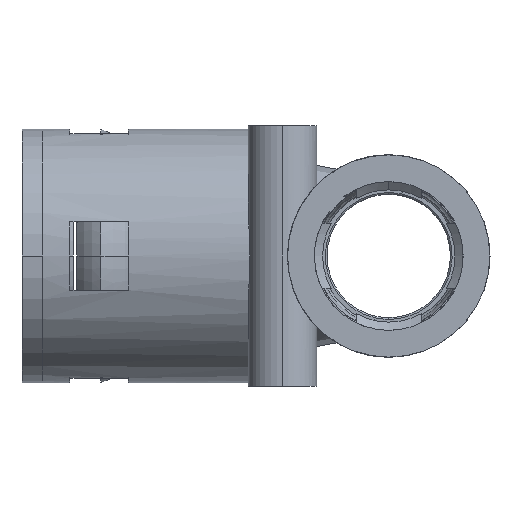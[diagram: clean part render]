
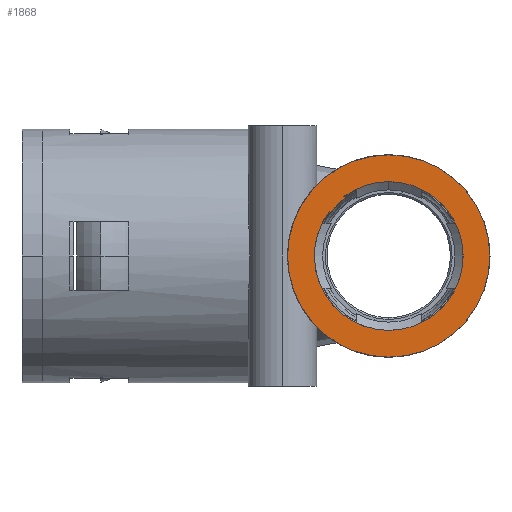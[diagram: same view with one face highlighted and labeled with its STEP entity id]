
A CAD part, left-side view. The second image highlights one B-rep face of the part: STEP entity #1868.
In plain terms, the highlighted planar face has unit normal (-1, 0, 0) as drawn and (0, 0, 1) by its records, which use the part's own axes.
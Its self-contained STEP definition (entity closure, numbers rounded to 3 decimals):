
#8 = VERTEX_POINT ( 'NONE', #5206 ) ;
#257 = CARTESIAN_POINT ( 'NONE',  ( 6.359, 8.481, 19.5 ) ) ;
#275 = ORIENTED_EDGE ( 'NONE', *, *, #709, .F. ) ;
#709 = EDGE_CURVE ( 'NONE', #2262, #8, #6063, .T. ) ;
#936 = EDGE_CURVE ( 'NONE', #12183, #5266, #12433, .T. ) ;
#1345 = VECTOR ( 'NONE', #5549, 1000. ) ;
#1555 = DIRECTION ( 'NONE',  ( 0., 0., 1. ) ) ;
#1868 = ADVANCED_FACE ( 'NONE', ( #4822, #12849 ), #13317, .T. ) ;
#1883 = DIRECTION ( 'NONE',  ( 0., 0., 1. ) ) ;
#2225 = AXIS2_PLACEMENT_3D ( 'NONE', #2880, #12325, #6053 ) ;
#2262 = VERTEX_POINT ( 'NONE', #12675 ) ;
#2439 = DIRECTION ( 'NONE',  ( 0., 0., 1. ) ) ;
#2767 = CARTESIAN_POINT ( 'NONE',  ( 0., 0., 19.5 ) ) ;
#2880 = CARTESIAN_POINT ( 'NONE',  ( 0., 0., 19.5 ) ) ;
#3063 = EDGE_CURVE ( 'NONE', #5266, #12183, #9733, .T. ) ;
#3256 = CARTESIAN_POINT ( 'NONE',  ( -10.85, 0., 19.5 ) ) ;
#3287 = AXIS2_PLACEMENT_3D ( 'NONE', #5158, #4746, #4889 ) ;
#3314 = ORIENTED_EDGE ( 'NONE', *, *, #3063, .T. ) ;
#3846 = DIRECTION ( 'NONE',  ( 1., 0., 0. ) ) ;
#3877 = VERTEX_POINT ( 'NONE', #11104 ) ;
#4107 = CARTESIAN_POINT ( 'NONE',  ( -15.235, -17.356, 19.5 ) ) ;
#4305 = ORIENTED_EDGE ( 'NONE', *, *, #10228, .F. ) ;
#4357 = DIRECTION ( 'NONE',  ( 1., 0., 0. ) ) ;
#4480 = ORIENTED_EDGE ( 'NONE', *, *, #4572, .F. ) ;
#4499 = CARTESIAN_POINT ( 'NONE',  ( -14.75, 0., 19.5 ) ) ;
#4572 = EDGE_CURVE ( 'NONE', #12483, #12196, #7262, .T. ) ;
#4708 = AXIS2_PLACEMENT_3D ( 'NONE', #5287, #12619, #6354 ) ;
#4746 = DIRECTION ( 'NONE',  ( 0., 0., 1. ) ) ;
#4779 = EDGE_CURVE ( 'NONE', #12483, #8, #7753, .T. ) ;
#4822 = FACE_BOUND ( 'NONE', #5080, .T. ) ;
#4889 = DIRECTION ( 'NONE',  ( 1., 0., 0. ) ) ;
#4988 = ORIENTED_EDGE ( 'NONE', *, *, #9612, .F. ) ;
#5080 = EDGE_LOOP ( 'NONE', ( #4305, #4988, #4480, #8675, #275, #6920 ) ) ;
#5158 = CARTESIAN_POINT ( 'NONE',  ( 0., 0., 19.5 ) ) ;
#5206 = CARTESIAN_POINT ( 'NONE',  ( 8.659, 6.538, 19.5 ) ) ;
#5266 = VERTEX_POINT ( 'NONE', #5990 ) ;
#5287 = CARTESIAN_POINT ( 'NONE',  ( 0., 0., 19.5 ) ) ;
#5549 = DIRECTION ( 'NONE',  ( 0.707, 0.707, 0. ) ) ;
#5623 = VECTOR ( 'NONE', #11439, 1000. ) ;
#5990 = CARTESIAN_POINT ( 'NONE',  ( 14.75, 0., 19.5 ) ) ;
#6053 = DIRECTION ( 'NONE',  ( 1., 0., 0. ) ) ;
#6063 = CIRCLE ( 'NONE', #6378, 10.85 ) ;
#6354 = DIRECTION ( 'NONE',  ( 1., 0., 0. ) ) ;
#6378 = AXIS2_PLACEMENT_3D ( 'NONE', #12860, #1555, #4357 ) ;
#6920 = ORIENTED_EDGE ( 'NONE', *, *, #11892, .F. ) ;
#7262 = CIRCLE ( 'NONE', #12044, 10.6 ) ;
#7753 = LINE ( 'NONE', #4107, #5623 ) ;
#7814 = ORIENTED_EDGE ( 'NONE', *, *, #936, .T. ) ;
#8199 = CARTESIAN_POINT ( 'NONE',  ( 0., 0., 19.5 ) ) ;
#8675 = ORIENTED_EDGE ( 'NONE', *, *, #4779, .T. ) ;
#8759 = CARTESIAN_POINT ( 'NONE',  ( 0., 0., 19.5 ) ) ;
#9268 = DIRECTION ( 'NONE',  ( 1., 0., 0. ) ) ;
#9324 = AXIS2_PLACEMENT_3D ( 'NONE', #2767, #10118, #3846 ) ;
#9612 = EDGE_CURVE ( 'NONE', #12196, #3877, #9756, .T. ) ;
#9733 = CIRCLE ( 'NONE', #4708, 14.75 ) ;
#9741 = CIRCLE ( 'NONE', #9324, 10.85 ) ;
#9756 = LINE ( 'NONE', #11842, #1345 ) ;
#9809 = DIRECTION ( 'NONE',  ( 1., 0., 0. ) ) ;
#10118 = DIRECTION ( 'NONE',  ( 0., 0., 1. ) ) ;
#10228 = EDGE_CURVE ( 'NONE', #3877, #10587, #9741, .T. ) ;
#10587 = VERTEX_POINT ( 'NONE', #3256 ) ;
#11104 = CARTESIAN_POINT ( 'NONE',  ( 6.538, 8.659, 19.5 ) ) ;
#11439 = DIRECTION ( 'NONE',  ( 0.707, 0.707, 0. ) ) ;
#11842 = CARTESIAN_POINT ( 'NONE',  ( -17.356, -15.235, 19.5 ) ) ;
#11867 = AXIS2_PLACEMENT_3D ( 'NONE', #8199, #1883, #9268 ) ;
#11892 = EDGE_CURVE ( 'NONE', #10587, #2262, #11950, .T. ) ;
#11950 = CIRCLE ( 'NONE', #11867, 10.85 ) ;
#12044 = AXIS2_PLACEMENT_3D ( 'NONE', #8759, #2439, #9809 ) ;
#12091 = EDGE_LOOP ( 'NONE', ( #7814, #3314 ) ) ;
#12183 = VERTEX_POINT ( 'NONE', #4499 ) ;
#12196 = VERTEX_POINT ( 'NONE', #257 ) ;
#12325 = DIRECTION ( 'NONE',  ( 0., 0., 1. ) ) ;
#12433 = CIRCLE ( 'NONE', #3287, 14.75 ) ;
#12483 = VERTEX_POINT ( 'NONE', #13405 ) ;
#12619 = DIRECTION ( 'NONE',  ( 0., 0., 1. ) ) ;
#12675 = CARTESIAN_POINT ( 'NONE',  ( 10.85, 0., 19.5 ) ) ;
#12849 = FACE_OUTER_BOUND ( 'NONE', #12091, .T. ) ;
#12860 = CARTESIAN_POINT ( 'NONE',  ( 0., 0., 19.5 ) ) ;
#13317 = PLANE ( 'NONE',  #2225 ) ;
#13405 = CARTESIAN_POINT ( 'NONE',  ( 8.481, 6.359, 19.5 ) ) ;
